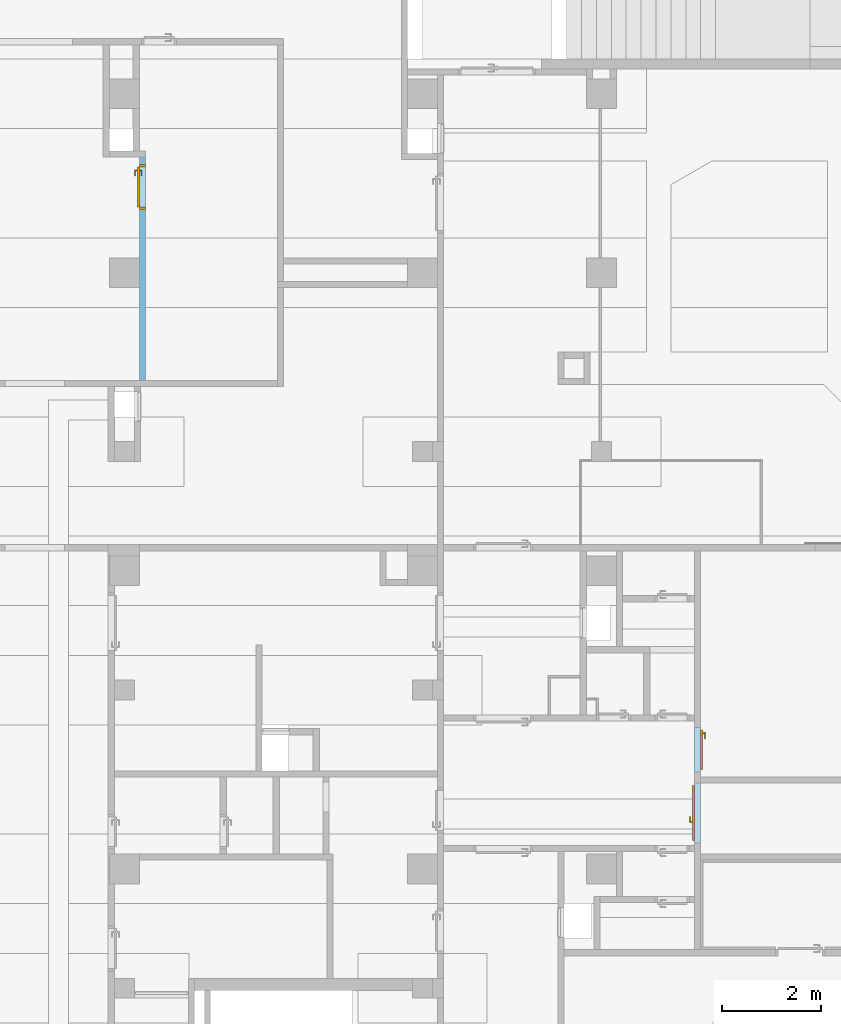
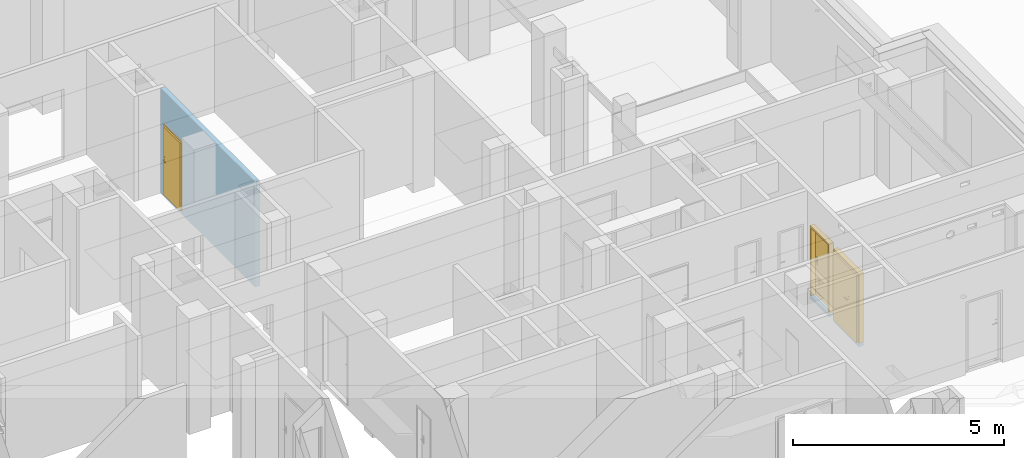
# One storey, part 70 of 84: 3 doors, 3 openings, plus 3 elements that do not belong to this part.
"""IFC4 building model written with IfcOpenShell, lengths in metres."""

from ifc_helpers import new_model, entity, si_unit, converted_unit, derived_unit, frame, frame_2d, origin, origin_with_axes, place, context, subcontext, project, spatial, polyline, rectangle, outline, extrude, closed_shell, open_shell, surface_model, source, transform, mapped, material, layer, layer_set, layer_usage, type_object, element, fill, save


model = new_model("IFC4")

# Units and contexts
model_context = context("Model", 3, precision=1e-05, world=origin())
body_context = subcontext(model_context, "Body", "Model", "MODEL_VIEW")
ifc_project = project(units=[si_unit("LENGTHUNIT", "METRE"), si_unit("AREAUNIT", "SQUARE_METRE"), si_unit("VOLUMEUNIT", "CUBIC_METRE"), si_unit("MASSUNIT", "GRAM", prefix="KILO"), converted_unit("PLANEANGLEUNIT", "DEGREE", entity("IfcPlaneAngleMeasure", 0.0174532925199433), si_unit("PLANEANGLEUNIT", "RADIAN"), dimensions=[0, 0, 0, 0, 0, 0, 0]), derived_unit("THERMALTRANSMITTANCEUNIT", [(si_unit("POWERUNIT", "WATT"), 1), (si_unit("THERMODYNAMICTEMPERATUREUNIT", "KELVIN"), -1), (si_unit("LENGTHUNIT", "METRE"), -2)]), derived_unit("VOLUMETRICFLOWRATEUNIT", [(si_unit("LENGTHUNIT", "METRE"), 3), (converted_unit("TIMEUNIT", "hour", entity("IfcTimeMeasure", 3600.0), si_unit("TIMEUNIT", "SECOND"), dimensions=[0, 0, 1, 0, 0, 0, 0]), -1), (si_unit("LENGTHUNIT", "METRE"), -1)])], contexts=[model_context])

# Site, building, storey
site_placement = place(None, origin())
site = spatial("IfcSite", under=ifc_project, at=site_placement, Name="3. ASŘ", CompositionType="ELEMENT")
building_placement = place(site_placement, origin())
building = spatial("IfcBuilding", under=site, at=building_placement, Name="Pavilon C", CompositionType="ELEMENT")
storey_placement = place(building_placement, frame((0.0, 0.0, -3.3)))
storey = spatial("IfcBuildingStorey", under=building, at=storey_placement, Name="Půdorys 1.PP", CompositionType="ELEMENT", Elevation=-3.3)

# Wall, opening, door
ifc_material_1 = material(Name="ZDIVO Z CDm")
ifc_layer_1 = layer(ifc_material_1, 0.125)
ifc_layer_set_1 = layer_set([ifc_layer_1])
ifc_layer_usage_1 = layer_usage(ifc_layer_set_1, "AXIS2", "POSITIVE", 0.0)
wall_1_placement = place(storey_placement, frame((34.65, 27.525, -0.1), z_axis=(0.0, 0.0, 1.0), x_axis=(0.0, -1.0, 0.0)))
wall_1 = element("IfcWall", 1, at=wall_1_placement, inside=storey, material=ifc_layer_usage_1, Name="ZDIVO Z CDm", context=body_context, shape_type="SweptSolid", body=[
    extrude(rectangle(XDim=4.495, YDim=0.125, at=frame_2d((2.2475, 0.0625), x_axis=(1.0, 0.0))), origin_with_axes(), (0.0, 0.0, 1.0), 3.05),
])
opening_1_placement = place(wall_1_placement, frame((0.150000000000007, 0.0, 0.1), z_axis=(0.0, 1.0, 0.0), x_axis=(0.0, 0.0, 1.0)))
opening_1 = element("IfcOpeningElement", 2, at=opening_1_placement, cuts=wall_1, Name="Dveřní otvor", ObjectType="Opening", context=body_context, shape_type="SweptSolid", body=[
    extrude(outline(polyline([(0.0, 0.9), (2.02, 0.9), (2.02, 0.0), (0.0, 0.0), (0.0, 0.9)])), origin_with_axes(), (0.0, 0.0, 1.0), 0.125),
])
door_type_1 = type_object("IfcDoorType", Name="D101", OperationType="NOTDEFINED", ParameterTakesPrecedence=False, PredefinedType="DOOR")
shared_shape_1 = source(origin_with_axes(), body_context, "Body", "SurfaceModel", [
    surface_model("IfcShellBasedSurfaceModel", [(0.0, 0.225, 2.02), (0.0, 0.225, -7.65404249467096e-18), (0.05, 0.225, -7.65404249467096e-18), (0.05, 0.225, 2.02), (0.0, 0.0999999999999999, 7.65404249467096e-18), (0.0, 0.1, 2.02), (0.05, 0.1, 2.02), (0.05, 0.0999999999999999, 7.65404249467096e-18)], [closed_shell([[[0, 1, 2, 3]], [[4, 5, 6, 7]], [[1, 0, 5, 4]], [[2, 1, 4, 7]], [[3, 2, 7, 6]], [[0, 3, 6, 5]]], orient=[[False], [False], [False], [False], [False], [False]])]),
    surface_model("IfcShellBasedSurfaceModel", [(0.85, 0.225, 2.02), (0.85, 0.225, -7.65404249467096e-18), (0.9, 0.225, -7.65404249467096e-18), (0.9, 0.225, 2.02), (0.85, 0.0999999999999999, 7.65404249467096e-18), (0.85, 0.1, 2.02), (0.9, 0.1, 2.02), (0.9, 0.0999999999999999, 7.65404249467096e-18)], [closed_shell([[[0, 1, 2, 3]], [[4, 5, 6, 7]], [[1, 0, 5, 4]], [[2, 1, 4, 7]], [[3, 2, 7, 6]], [[0, 3, 6, 5]]], orient=[[False], [False], [False], [False], [False], [False]])]),
    surface_model("IfcShellBasedSurfaceModel", [(0.05, 0.225, 2.02), (0.05, 0.225, 1.97), (0.85, 0.225, 1.97), (0.85, 0.225, 2.02), (0.05, 0.1, 1.97), (0.05, 0.1, 2.02), (0.85, 0.1, 2.02), (0.85, 0.1, 1.97)], [closed_shell([[[0, 1, 2, 3]], [[4, 5, 6, 7]], [[1, 0, 5, 4]], [[2, 1, 4, 7]], [[3, 2, 7, 6]], [[0, 3, 6, 5]]], orient=[[False], [False], [False], [False], [False], [False]])]),
    surface_model("IfcShellBasedSurfaceModel", [(0.05, 0.1, 1.97), (0.05, 0.0999999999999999, 7.65404249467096e-18), (0.85, 0.0999999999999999, 7.65404249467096e-18), (0.85, 0.1, 1.97), (0.05, 0.0599999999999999, 1.25526296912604e-17), (0.05, 0.0600000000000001, 1.97), (0.85, 0.0600000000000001, 1.97), (0.85, 0.0599999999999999, 1.25526296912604e-17)], [closed_shell([[[0, 1, 2, 3]], [[4, 5, 6, 7]], [[1, 0, 5, 4]], [[2, 1, 4, 7]], [[3, 2, 7, 6]], [[0, 3, 6, 5]]], orient=[[False], [False], [False], [False], [False], [False]])]),
    surface_model("IfcShellBasedSurfaceModel", [(0.09, 0.06, 1.125), (0.09, 0.06, 0.91), (0.14, 0.06, 0.91), (0.14, 0.06, 1.125), (0.09, 0.05, 0.91), (0.09, 0.05, 1.125), (0.14, 0.05, 1.125), (0.14, 0.05, 0.91)], [closed_shell([[[0, 1, 2, 3]], [[4, 5, 6, 7]], [[1, 0, 5, 4]], [[2, 1, 4, 7]], [[3, 2, 7, 6]], [[0, 3, 6, 5]]], orient=[[False], [False], [False], [False], [False], [False]])]),
    surface_model("IfcShellBasedSurfaceModel", [(0.115, 0.05, 1.06), (0.11, 0.05, 1.05866025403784), (0.106339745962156, 0.05, 1.055), (0.105, 0.05, 1.05), (0.106339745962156, 0.05, 1.045), (0.11, 0.05, 1.04133974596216), (0.115, 0.05, 1.04), (0.12, 0.05, 1.04133974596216), (0.123660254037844, 0.05, 1.045), (0.125, 0.05, 1.05), (0.123660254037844, 0.05, 1.055), (0.12, 0.05, 1.05866025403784), (0.115, 0.01, 1.06), (0.11, 0.00500000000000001, 1.05866025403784), (0.106339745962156, 0.00133974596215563, 1.055), (0.105, 2.8421709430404e-17, 1.05), (0.106339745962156, 0.00133974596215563, 1.045), (0.11, 0.00500000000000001, 1.04133974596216), (0.115, 0.01, 1.04), (0.12, 0.015, 1.04133974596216), (0.123660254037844, 0.0186602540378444, 1.045), (0.125, 0.02, 1.05), (0.123660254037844, 0.0186602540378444, 1.055), (0.12, 0.015, 1.05866025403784), (0.23, 0.01, 1.06), (0.23, 0.005, 1.05866025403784), (0.23, 0.00133974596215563, 1.055), (0.23, 0.0, 1.05), (0.23, 0.00133974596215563, 1.045), (0.23, 0.005, 1.04133974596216), (0.23, 0.01, 1.04), (0.23, 0.015, 1.04133974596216), (0.23, 0.0186602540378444, 1.045), (0.23, 0.02, 1.05), (0.23, 0.0186602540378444, 1.055), (0.23, 0.015, 1.05866025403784)], [open_shell([[[0, 1, 2, 3, 4, 5, 6, 7, 8, 9, 10, 11]], [[0, 12, 13, 1]], [[1, 13, 14, 2]], [[2, 14, 15, 3]], [[3, 15, 16, 4]], [[4, 16, 17, 5]], [[5, 17, 18, 6]], [[6, 18, 19, 7]], [[7, 19, 20, 8]], [[8, 20, 21, 9]], [[9, 21, 22, 10]], [[10, 22, 23, 11]], [[11, 23, 12, 0]], [[12, 24, 25, 13]], [[13, 25, 26, 14]], [[14, 26, 27, 15]], [[15, 27, 28, 16]], [[16, 28, 29, 17]], [[17, 29, 30, 18]], [[18, 30, 31, 19]], [[19, 31, 32, 20]], [[20, 32, 33, 21]], [[21, 33, 34, 22]], [[22, 34, 35, 23]], [[23, 35, 24, 12]]], orient=[[False], [False], [False], [False], [False], [False], [False], [False], [False], [False], [False], [False], [False], [False], [False], [False], [False], [False], [False], [False], [False], [False], [False], [False], [False]])]),
    surface_model("IfcShellBasedSurfaceModel", [(0.09, 0.1, 1.125), (0.14, 0.1, 1.125), (0.14, 0.1, 0.91), (0.09, 0.1, 0.91), (0.09, 0.11, 0.91), (0.14, 0.11, 0.91), (0.14, 0.11, 1.125), (0.09, 0.11, 1.125)], [closed_shell([[[0, 1, 2, 3]], [[4, 5, 6, 7]], [[3, 4, 7, 0]], [[2, 5, 4, 3]], [[1, 6, 5, 2]], [[0, 7, 6, 1]]], orient=[[False], [False], [False], [False], [False], [False]])]),
    surface_model("IfcShellBasedSurfaceModel", [(0.115, 0.11, 1.06), (0.12, 0.11, 1.05866025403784), (0.123660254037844, 0.11, 1.055), (0.125, 0.11, 1.05), (0.123660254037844, 0.11, 1.045), (0.12, 0.11, 1.04133974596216), (0.115, 0.11, 1.04), (0.11, 0.11, 1.04133974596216), (0.106339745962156, 0.11, 1.045), (0.105, 0.11, 1.05), (0.106339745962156, 0.11, 1.055), (0.11, 0.11, 1.05866025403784), (0.11, 0.155, 1.05866025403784), (0.115, 0.15, 1.06), (0.106339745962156, 0.158660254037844, 1.055), (0.105, 0.16, 1.05), (0.106339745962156, 0.158660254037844, 1.045), (0.11, 0.155, 1.04133974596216), (0.115, 0.15, 1.04), (0.12, 0.145, 1.04133974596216), (0.123660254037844, 0.141339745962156, 1.045), (0.125, 0.14, 1.05), (0.123660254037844, 0.141339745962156, 1.055), (0.12, 0.145, 1.05866025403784), (0.23, 0.155, 1.05866025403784), (0.23, 0.15, 1.06), (0.23, 0.158660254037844, 1.055), (0.23, 0.16, 1.05), (0.23, 0.158660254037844, 1.045), (0.23, 0.155, 1.04133974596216), (0.23, 0.15, 1.04), (0.23, 0.145, 1.04133974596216), (0.23, 0.141339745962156, 1.045), (0.23, 0.14, 1.05), (0.23, 0.141339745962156, 1.055), (0.23, 0.145, 1.05866025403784)], [open_shell([[[0, 1, 2, 3, 4, 5, 6, 7, 8, 9, 10, 11]], [[0, 11, 12, 13]], [[11, 10, 14, 12]], [[10, 9, 15, 14]], [[9, 8, 16, 15]], [[8, 7, 17, 16]], [[7, 6, 18, 17]], [[6, 5, 19, 18]], [[5, 4, 20, 19]], [[4, 3, 21, 20]], [[3, 2, 22, 21]], [[2, 1, 23, 22]], [[1, 0, 13, 23]], [[13, 12, 24, 25]], [[12, 14, 26, 24]], [[14, 15, 27, 26]], [[15, 16, 28, 27]], [[16, 17, 29, 28]], [[17, 18, 30, 29]], [[18, 19, 31, 30]], [[19, 20, 32, 31]], [[20, 21, 33, 32]], [[21, 22, 34, 33]], [[22, 23, 35, 34]], [[23, 13, 25, 35]]], orient=[[False], [False], [False], [False], [False], [False], [False], [False], [False], [False], [False], [False], [False], [False], [False], [False], [False], [False], [False], [False], [False], [False], [False], [False], [False]])]),
])
door_1_placement = place(opening_1_placement, frame((0.0, 7.27595761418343e-15, -0.100000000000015), z_axis=(1.0, 0.0, 0.0), x_axis=(0.0, 1.0, 1.22464679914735e-16)))
door_1 = element("IfcDoor", 3, at=door_1_placement, inside=storey, type_object=door_type_1, Name="D101", OverallHeight=2.02, OverallWidth=0.9, context=body_context, shape_type="MappedRepresentation", body=[
    mapped(shared_shape_1, transform((0.0, 0.0, 0.0), x_axis=(1.0, 0.0, 0.0), y_axis=(0.0, 1.0, 0.0), z_axis=(0.0, 0.0, 1.0), scale=1.0)),
])
fill(opening_1, door_1)

ifc_material_2 = material(Name="ZDIVO Z CDm")
ifc_layer_2 = layer(ifc_material_2, 0.125)
ifc_layer_set_2 = layer_set([ifc_layer_2])
ifc_layer_usage_2 = layer_usage(ifc_layer_set_2, "AXIS2", "POSITIVE", 0.0)
wall_2_placement = place(storey_placement, frame((45.95, 13.725, -0.1), z_axis=(0.0, 0.0, 1.0), x_axis=(0.0, 1.0, 0.0)))
wall_2 = element("IfcWall", 4, at=wall_2_placement, inside=storey, material=ifc_layer_usage_2, Name="ZDIVO Z CDm", context=body_context, shape_type="SweptSolid", body=[
    extrude(rectangle(XDim=1.2, YDim=0.125, at=frame_2d((0.6, 0.0625), x_axis=(1.0, 0.0))), origin_with_axes(), (0.0, 0.0, 1.0), 2.12),
])
opening_2_placement = place(wall_2_placement, frame((0.0, 0.0, 0.1), z_axis=(0.0, 1.0, 0.0), x_axis=(0.0, 0.0, 1.0)))
opening_2 = element("IfcOpeningElement", 5, at=opening_2_placement, cuts=wall_2, Name="Dveřní otvor", ObjectType="Opening", context=body_context, shape_type="SweptSolid", body=[
    extrude(outline(polyline([(0.0, 1.2), (2.02, 1.2), (2.02, 0.0), (0.0, 0.0), (0.0, 1.2)])), origin_with_axes(), (0.0, 0.0, 1.0), 0.125),
])
door_type_2 = type_object("IfcDoorType", Name="I.D035", OperationType="NOTDEFINED", ParameterTakesPrecedence=False, PredefinedType="DOOR")
shared_shape_2 = source(origin_with_axes(), body_context, "Body", "SurfaceModel", [
    surface_model("IfcShellBasedSurfaceModel", [(0.0, 0.125, 2.019), (0.0, 0.125, -7.7715611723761e-18), (0.05, 0.125, -7.7715611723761e-18), (0.05, 0.125, 2.019), (0.0, 0.0, 7.54951656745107e-18), (0.0, 2.41584530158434e-16, 2.019), (0.05, 2.41584530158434e-16, 2.019), (0.05, 0.0, 7.54951656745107e-18)], [closed_shell([[[0, 1, 2, 3]], [[4, 5, 6, 7]], [[1, 0, 5, 4]], [[2, 1, 4, 7]], [[3, 2, 7, 6]], [[0, 3, 6, 5]]], orient=[[False], [False], [False], [False], [False], [False]])]),
    surface_model("IfcShellBasedSurfaceModel", [(1.15, 0.125, 2.019), (1.15, 0.125, -7.7715611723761e-18), (1.2, 0.125, -7.7715611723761e-18), (1.2, 0.125, 2.019), (1.15, 0.0, 7.54951656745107e-18), (1.15, 2.41584530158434e-16, 2.019), (1.2, 2.41584530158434e-16, 2.019), (1.2, 0.0, 7.54951656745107e-18)], [closed_shell([[[0, 1, 2, 3]], [[4, 5, 6, 7]], [[1, 0, 5, 4]], [[2, 1, 4, 7]], [[3, 2, 7, 6]], [[0, 3, 6, 5]]], orient=[[False], [False], [False], [False], [False], [False]])]),
    surface_model("IfcShellBasedSurfaceModel", [(0.05, 0.125, 2.019), (0.05, 0.125, 1.969), (1.15, 0.125, 1.969), (1.15, 0.125, 2.019), (0.05, 2.41584530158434e-16, 1.969), (0.05, 2.41584530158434e-16, 2.019), (1.15, 2.41584530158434e-16, 2.019), (1.15, 2.41584530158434e-16, 1.969)], [closed_shell([[[0, 1, 2, 3]], [[4, 5, 6, 7]], [[1, 0, 5, 4]], [[2, 1, 4, 7]], [[3, 2, 7, 6]], [[0, 3, 6, 5]]], orient=[[False], [False], [False], [False], [False], [False]])]),
    surface_model("IfcShellBasedSurfaceModel", [(0.05, 0.165, 1.969), (0.05, 0.165, -1.26565424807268e-17), (0.85, 0.165, -1.26565424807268e-17), (0.85, 0.165, 1.969), (0.05, 0.125, -7.7715611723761e-18), (0.05, 0.125, 1.969), (0.85, 0.125, 1.969), (0.85, 0.125, -7.7715611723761e-18)], [closed_shell([[[0, 1, 2, 3]], [[4, 5, 6, 7]], [[1, 0, 5, 4]], [[2, 1, 4, 7]], [[3, 2, 7, 6]], [[0, 3, 6, 5]]], orient=[[False], [False], [False], [False], [False], [False]])]),
    surface_model("IfcShellBasedSurfaceModel", [(0.76, 0.125, 1.125), (0.76, 0.125, 0.91), (0.81, 0.125, 0.91), (0.81, 0.125, 1.125), (0.76, 0.115, 0.91), (0.76, 0.115, 1.125), (0.81, 0.115, 1.125), (0.81, 0.115, 0.91)], [closed_shell([[[0, 1, 2, 3]], [[4, 5, 6, 7]], [[1, 0, 5, 4]], [[2, 1, 4, 7]], [[3, 2, 7, 6]], [[0, 3, 6, 5]]], orient=[[False], [False], [False], [False], [False], [False]])]),
    surface_model("IfcShellBasedSurfaceModel", [(0.785, 0.115, 1.06), (0.78, 0.115, 1.05866025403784), (0.776339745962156, 0.115, 1.055), (0.775, 0.115, 1.05), (0.776339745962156, 0.115, 1.045), (0.78, 0.115, 1.04133974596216), (0.785, 0.115, 1.04), (0.79, 0.115, 1.04133974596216), (0.793660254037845, 0.115, 1.045), (0.795, 0.115, 1.05), (0.793660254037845, 0.115, 1.055), (0.79, 0.115, 1.05866025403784), (0.79, 0.0700000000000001, 1.05866025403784), (0.785, 0.0750000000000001, 1.06), (0.793660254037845, 0.0663397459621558, 1.055), (0.795, 0.0650000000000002, 1.05), (0.793660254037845, 0.0663397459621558, 1.045), (0.79, 0.0700000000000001, 1.04133974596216), (0.785, 0.0750000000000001, 1.04), (0.78, 0.0800000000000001, 1.04133974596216), (0.776339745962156, 0.0836602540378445, 1.045), (0.775, 0.0850000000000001, 1.05), (0.776339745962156, 0.0836602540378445, 1.055), (0.78, 0.0800000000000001, 1.05866025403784), (0.67, 0.0700000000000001, 1.05866025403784), (0.67, 0.0750000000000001, 1.06), (0.67, 0.0663397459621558, 1.055), (0.67, 0.0650000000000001, 1.05), (0.67, 0.0663397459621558, 1.045), (0.67, 0.0700000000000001, 1.04133974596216), (0.67, 0.0750000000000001, 1.04), (0.67, 0.0800000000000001, 1.04133974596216), (0.67, 0.0836602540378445, 1.045), (0.67, 0.0850000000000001, 1.05), (0.67, 0.0836602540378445, 1.055), (0.67, 0.0800000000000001, 1.05866025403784)], [open_shell([[[0, 1, 2, 3, 4, 5, 6, 7, 8, 9, 10, 11]], [[0, 11, 12, 13]], [[11, 10, 14, 12]], [[10, 9, 15, 14]], [[9, 8, 16, 15]], [[8, 7, 17, 16]], [[7, 6, 18, 17]], [[6, 5, 19, 18]], [[5, 4, 20, 19]], [[4, 3, 21, 20]], [[3, 2, 22, 21]], [[2, 1, 23, 22]], [[1, 0, 13, 23]], [[13, 12, 24, 25]], [[12, 14, 26, 24]], [[14, 15, 27, 26]], [[15, 16, 28, 27]], [[16, 17, 29, 28]], [[17, 18, 30, 29]], [[18, 19, 31, 30]], [[19, 20, 32, 31]], [[20, 21, 33, 32]], [[21, 22, 34, 33]], [[22, 23, 35, 34]], [[23, 13, 25, 35]]], orient=[[False], [False], [False], [False], [False], [False], [False], [False], [False], [False], [False], [False], [False], [False], [False], [False], [False], [False], [False], [False], [False], [False], [False], [False], [False]])]),
    surface_model("IfcShellBasedSurfaceModel", [(0.76, 0.165, 1.125), (0.81, 0.165, 1.125), (0.81, 0.165, 0.91), (0.76, 0.165, 0.91), (0.76, 0.175, 0.91), (0.81, 0.175, 0.91), (0.81, 0.175, 1.125), (0.76, 0.175, 1.125)], [closed_shell([[[0, 1, 2, 3]], [[4, 5, 6, 7]], [[3, 4, 7, 0]], [[2, 5, 4, 3]], [[1, 6, 5, 2]], [[0, 7, 6, 1]]], orient=[[False], [False], [False], [False], [False], [False]])]),
    surface_model("IfcShellBasedSurfaceModel", [(0.785, 0.175, 1.06), (0.79, 0.175, 1.05866025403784), (0.793660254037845, 0.175, 1.055), (0.795, 0.175, 1.05), (0.793660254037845, 0.175, 1.045), (0.79, 0.175, 1.04133974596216), (0.785, 0.175, 1.04), (0.78, 0.175, 1.04133974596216), (0.776339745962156, 0.175, 1.045), (0.775, 0.175, 1.05), (0.776339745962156, 0.175, 1.055), (0.78, 0.175, 1.05866025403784), (0.785, 0.215, 1.06), (0.79, 0.22, 1.05866025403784), (0.793660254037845, 0.223660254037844, 1.055), (0.795, 0.225, 1.05), (0.793660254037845, 0.223660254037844, 1.045), (0.79, 0.22, 1.04133974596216), (0.785, 0.215, 1.04), (0.78, 0.21, 1.04133974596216), (0.776339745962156, 0.206339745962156, 1.045), (0.775, 0.205, 1.05), (0.776339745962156, 0.206339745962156, 1.055), (0.78, 0.21, 1.05866025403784), (0.67, 0.215, 1.06), (0.67, 0.22, 1.05866025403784), (0.67, 0.223660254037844, 1.055), (0.67, 0.225, 1.05), (0.67, 0.223660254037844, 1.045), (0.67, 0.22, 1.04133974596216), (0.67, 0.215, 1.04), (0.67, 0.21, 1.04133974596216), (0.67, 0.206339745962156, 1.045), (0.67, 0.205, 1.05), (0.67, 0.206339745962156, 1.055), (0.67, 0.21, 1.05866025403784)], [open_shell([[[0, 1, 2, 3, 4, 5, 6, 7, 8, 9, 10, 11]], [[0, 12, 13, 1]], [[1, 13, 14, 2]], [[2, 14, 15, 3]], [[3, 15, 16, 4]], [[4, 16, 17, 5]], [[5, 17, 18, 6]], [[6, 18, 19, 7]], [[7, 19, 20, 8]], [[8, 20, 21, 9]], [[9, 21, 22, 10]], [[10, 22, 23, 11]], [[11, 23, 12, 0]], [[12, 24, 25, 13]], [[13, 25, 26, 14]], [[14, 26, 27, 15]], [[15, 27, 28, 16]], [[16, 28, 29, 17]], [[17, 29, 30, 18]], [[18, 30, 31, 19]], [[19, 31, 32, 20]], [[20, 32, 33, 21]], [[21, 33, 34, 22]], [[22, 34, 35, 23]], [[23, 35, 24, 12]]], orient=[[False], [False], [False], [False], [False], [False], [False], [False], [False], [False], [False], [False], [False], [False], [False], [False], [False], [False], [False], [False], [False], [False], [False], [False], [False]])]),
    surface_model("IfcShellBasedSurfaceModel", [(0.851, 0.165, 1.969), (0.851, 0.165, -1.26565424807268e-17), (1.15, 0.165, -1.26565424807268e-17), (1.15, 0.165, 1.969), (0.851, 0.125, -7.7715611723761e-18), (0.851, 0.125, 1.969), (1.15, 0.125, 1.969), (1.15, 0.125, -7.7715611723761e-18)], [closed_shell([[[0, 1, 2, 3]], [[4, 5, 6, 7]], [[1, 0, 5, 4]], [[2, 1, 4, 7]], [[3, 2, 7, 6]], [[0, 3, 6, 5]]], orient=[[False], [False], [False], [False], [False], [False]])]),
])
door_2_placement = place(opening_2_placement, frame((0.001, 1.19999999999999, 1.45519152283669e-14), z_axis=(1.0, 0.0, 0.0), x_axis=(0.0, -1.0, 1.22464679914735e-16)))
door_2 = element("IfcDoor", 6, at=door_2_placement, inside=storey, type_object=door_type_2, Name="I.D035", OverallHeight=2.02, OverallWidth=1.2, context=body_context, shape_type="MappedRepresentation", body=[
    mapped(shared_shape_2, transform((0.0, 0.0, 0.0), x_axis=(1.0, 0.0, 0.0), y_axis=(0.0, -1.0, 0.0), z_axis=(0.0, 0.0, 1.0), scale=1.0)),
])
fill(opening_2, door_2)

ifc_material_3 = material(Name="ZDIVO Z CDm")
ifc_layer_3 = layer(ifc_material_3, 0.125)
ifc_layer_set_3 = layer_set([ifc_layer_3])
ifc_layer_usage_3 = layer_usage(ifc_layer_set_3, "AXIS2", "POSITIVE", 0.0)
wall_3_placement = place(storey_placement, frame((45.95, 15.15, -0.1), z_axis=(0.0, 0.0, 1.0), x_axis=(0.0, 1.0, 0.0)))
wall_3 = element("IfcWall", 7, at=wall_3_placement, inside=storey, material=ifc_layer_usage_3, Name="ZDIVO Z CDm", context=body_context, shape_type="SweptSolid", body=[
    extrude(rectangle(XDim=0.9, YDim=0.125, at=frame_2d((0.45, 0.0625), x_axis=(1.0, 0.0))), origin_with_axes(), (0.0, 0.0, 1.0), 2.12),
])
opening_3_placement = place(wall_3_placement, frame((0.9, 0.125, 0.1), z_axis=(0.0, -1.0, 0.0), x_axis=(0.0, 0.0, 1.0)))
opening_3 = element("IfcOpeningElement", 8, at=opening_3_placement, cuts=wall_3, Name="Dveřní otvor", ObjectType="Opening", context=body_context, shape_type="SweptSolid", body=[
    extrude(outline(polyline([(0.0, 0.9), (2.02, 0.9), (2.02, 0.0), (0.0, 0.0), (0.0, 0.9)])), origin_with_axes(), (0.0, 0.0, 1.0), 0.125),
])
door_type_3 = type_object("IfcDoorType", Name="I.D034", OperationType="NOTDEFINED", ParameterTakesPrecedence=False, PredefinedType="DOOR")
shared_shape_3 = source(origin_with_axes(), body_context, "Body", "SurfaceModel", [
    surface_model("IfcShellBasedSurfaceModel", [(0.0, 0.125, 2.019), (0.0, 0.125, -7.7715611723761e-18), (0.05, 0.125, -7.7715611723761e-18), (0.05, 0.125, 2.019), (0.0, 0.0, 7.54951656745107e-18), (0.0, 2.41584530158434e-16, 2.019), (0.05, 2.41584530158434e-16, 2.019), (0.05, 0.0, 7.54951656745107e-18)], [closed_shell([[[0, 1, 2, 3]], [[4, 5, 6, 7]], [[1, 0, 5, 4]], [[2, 1, 4, 7]], [[3, 2, 7, 6]], [[0, 3, 6, 5]]], orient=[[False], [False], [False], [False], [False], [False]])]),
    surface_model("IfcShellBasedSurfaceModel", [(0.85, 0.125, 2.019), (0.85, 0.125, -7.7715611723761e-18), (0.9, 0.125, -7.7715611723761e-18), (0.9, 0.125, 2.019), (0.85, 0.0, 7.54951656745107e-18), (0.85, 2.41584530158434e-16, 2.019), (0.9, 2.41584530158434e-16, 2.019), (0.9, 0.0, 7.54951656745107e-18)], [closed_shell([[[0, 1, 2, 3]], [[4, 5, 6, 7]], [[1, 0, 5, 4]], [[2, 1, 4, 7]], [[3, 2, 7, 6]], [[0, 3, 6, 5]]], orient=[[False], [False], [False], [False], [False], [False]])]),
    surface_model("IfcShellBasedSurfaceModel", [(0.05, 0.125, 2.019), (0.05, 0.125, 1.969), (0.85, 0.125, 1.969), (0.85, 0.125, 2.019), (0.05, 2.41584530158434e-16, 1.969), (0.05, 2.41584530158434e-16, 2.019), (0.85, 2.41584530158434e-16, 2.019), (0.85, 2.41584530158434e-16, 1.969)], [closed_shell([[[0, 1, 2, 3]], [[4, 5, 6, 7]], [[1, 0, 5, 4]], [[2, 1, 4, 7]], [[3, 2, 7, 6]], [[0, 3, 6, 5]]], orient=[[False], [False], [False], [False], [False], [False]])]),
    surface_model("IfcShellBasedSurfaceModel", [(0.05, 0.165, 1.969), (0.05, 0.165, -1.26565424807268e-17), (0.85, 0.165, -1.26565424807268e-17), (0.85, 0.165, 1.969), (0.05, 0.125, -7.7715611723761e-18), (0.05, 0.125, 1.969), (0.85, 0.125, 1.969), (0.85, 0.125, -7.7715611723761e-18)], [closed_shell([[[0, 1, 2, 3]], [[4, 5, 6, 7]], [[1, 0, 5, 4]], [[2, 1, 4, 7]], [[3, 2, 7, 6]], [[0, 3, 6, 5]]], orient=[[False], [False], [False], [False], [False], [False]])]),
    surface_model("IfcShellBasedSurfaceModel", [(0.76, 0.125, 1.125), (0.76, 0.125, 0.91), (0.81, 0.125, 0.91), (0.81, 0.125, 1.125), (0.76, 0.115, 0.91), (0.76, 0.115, 1.125), (0.81, 0.115, 1.125), (0.81, 0.115, 0.91)], [closed_shell([[[0, 1, 2, 3]], [[4, 5, 6, 7]], [[1, 0, 5, 4]], [[2, 1, 4, 7]], [[3, 2, 7, 6]], [[0, 3, 6, 5]]], orient=[[False], [False], [False], [False], [False], [False]])]),
    surface_model("IfcShellBasedSurfaceModel", [(0.785, 0.115, 1.06), (0.78, 0.115, 1.05866025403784), (0.776339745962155, 0.115, 1.055), (0.775, 0.115, 1.05), (0.776339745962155, 0.115, 1.045), (0.78, 0.115, 1.04133974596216), (0.785, 0.115, 1.04), (0.79, 0.115, 1.04133974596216), (0.793660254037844, 0.115, 1.045), (0.795, 0.115, 1.05), (0.793660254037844, 0.115, 1.055), (0.79, 0.115, 1.05866025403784), (0.79, 0.0700000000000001, 1.05866025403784), (0.785, 0.0750000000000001, 1.06), (0.793660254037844, 0.0663397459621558, 1.055), (0.795, 0.0650000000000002, 1.05), (0.793660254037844, 0.0663397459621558, 1.045), (0.79, 0.0700000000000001, 1.04133974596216), (0.785, 0.0750000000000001, 1.04), (0.78, 0.0800000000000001, 1.04133974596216), (0.776339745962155, 0.0836602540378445, 1.045), (0.775, 0.0850000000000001, 1.05), (0.776339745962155, 0.0836602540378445, 1.055), (0.78, 0.0800000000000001, 1.05866025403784), (0.67, 0.0700000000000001, 1.05866025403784), (0.67, 0.0750000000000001, 1.06), (0.67, 0.0663397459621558, 1.055), (0.67, 0.0650000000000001, 1.05), (0.67, 0.0663397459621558, 1.045), (0.67, 0.0700000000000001, 1.04133974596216), (0.67, 0.0750000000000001, 1.04), (0.67, 0.0800000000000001, 1.04133974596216), (0.67, 0.0836602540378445, 1.045), (0.67, 0.0850000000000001, 1.05), (0.67, 0.0836602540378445, 1.055), (0.67, 0.0800000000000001, 1.05866025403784)], [open_shell([[[0, 1, 2, 3, 4, 5, 6, 7, 8, 9, 10, 11]], [[0, 11, 12, 13]], [[11, 10, 14, 12]], [[10, 9, 15, 14]], [[9, 8, 16, 15]], [[8, 7, 17, 16]], [[7, 6, 18, 17]], [[6, 5, 19, 18]], [[5, 4, 20, 19]], [[4, 3, 21, 20]], [[3, 2, 22, 21]], [[2, 1, 23, 22]], [[1, 0, 13, 23]], [[13, 12, 24, 25]], [[12, 14, 26, 24]], [[14, 15, 27, 26]], [[15, 16, 28, 27]], [[16, 17, 29, 28]], [[17, 18, 30, 29]], [[18, 19, 31, 30]], [[19, 20, 32, 31]], [[20, 21, 33, 32]], [[21, 22, 34, 33]], [[22, 23, 35, 34]], [[23, 13, 25, 35]]], orient=[[False], [False], [False], [False], [False], [False], [False], [False], [False], [False], [False], [False], [False], [False], [False], [False], [False], [False], [False], [False], [False], [False], [False], [False], [False]])]),
    surface_model("IfcShellBasedSurfaceModel", [(0.76, 0.165, 1.125), (0.81, 0.165, 1.125), (0.81, 0.165, 0.91), (0.76, 0.165, 0.91), (0.76, 0.175, 0.91), (0.81, 0.175, 0.91), (0.81, 0.175, 1.125), (0.76, 0.175, 1.125)], [closed_shell([[[0, 1, 2, 3]], [[4, 5, 6, 7]], [[3, 4, 7, 0]], [[2, 5, 4, 3]], [[1, 6, 5, 2]], [[0, 7, 6, 1]]], orient=[[False], [False], [False], [False], [False], [False]])]),
    surface_model("IfcShellBasedSurfaceModel", [(0.785, 0.175, 1.06), (0.79, 0.175, 1.05866025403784), (0.793660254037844, 0.175, 1.055), (0.795, 0.175, 1.05), (0.793660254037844, 0.175, 1.045), (0.79, 0.175, 1.04133974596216), (0.785, 0.175, 1.04), (0.78, 0.175, 1.04133974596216), (0.776339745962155, 0.175, 1.045), (0.775, 0.175, 1.05), (0.776339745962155, 0.175, 1.055), (0.78, 0.175, 1.05866025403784), (0.785, 0.215, 1.06), (0.79, 0.22, 1.05866025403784), (0.793660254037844, 0.223660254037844, 1.055), (0.795, 0.225, 1.05), (0.793660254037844, 0.223660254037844, 1.045), (0.79, 0.22, 1.04133974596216), (0.785, 0.215, 1.04), (0.78, 0.21, 1.04133974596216), (0.776339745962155, 0.206339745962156, 1.045), (0.775, 0.205, 1.05), (0.776339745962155, 0.206339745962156, 1.055), (0.78, 0.21, 1.05866025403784), (0.67, 0.215, 1.06), (0.67, 0.22, 1.05866025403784), (0.67, 0.223660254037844, 1.055), (0.67, 0.225, 1.05), (0.67, 0.223660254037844, 1.045), (0.67, 0.22, 1.04133974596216), (0.67, 0.215, 1.04), (0.67, 0.21, 1.04133974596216), (0.67, 0.206339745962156, 1.045), (0.67, 0.205, 1.05), (0.67, 0.206339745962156, 1.055), (0.67, 0.21, 1.05866025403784)], [open_shell([[[0, 1, 2, 3, 4, 5, 6, 7, 8, 9, 10, 11]], [[0, 12, 13, 1]], [[1, 13, 14, 2]], [[2, 14, 15, 3]], [[3, 15, 16, 4]], [[4, 16, 17, 5]], [[5, 17, 18, 6]], [[6, 18, 19, 7]], [[7, 19, 20, 8]], [[8, 20, 21, 9]], [[9, 21, 22, 10]], [[10, 22, 23, 11]], [[11, 23, 12, 0]], [[12, 24, 25, 13]], [[13, 25, 26, 14]], [[14, 26, 27, 15]], [[15, 27, 28, 16]], [[16, 28, 29, 17]], [[17, 29, 30, 18]], [[18, 30, 31, 19]], [[19, 31, 32, 20]], [[20, 32, 33, 21]], [[21, 33, 34, 22]], [[22, 34, 35, 23]], [[23, 35, 24, 12]]], orient=[[False], [False], [False], [False], [False], [False], [False], [False], [False], [False], [False], [False], [False], [False], [False], [False], [False], [False], [False], [False], [False], [False], [False], [False], [False]])]),
])
door_3_placement = place(opening_3_placement, frame((0.001, 0.900000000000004, -1.45519152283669e-14), z_axis=(1.0, 0.0, 0.0), x_axis=(0.0, -1.0, -1.22464679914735e-16)))
door_3 = element("IfcDoor", 9, at=door_3_placement, inside=storey, type_object=door_type_3, Name="I.D034", OverallHeight=2.02, OverallWidth=0.9, context=body_context, shape_type="MappedRepresentation", body=[
    mapped(shared_shape_3, transform((0.0, 0.0, 0.0), x_axis=(1.0, 0.0, 0.0), y_axis=(0.0, -1.0, 0.0), z_axis=(0.0, 0.0, 1.0), scale=1.0)),
])
fill(opening_3, door_3)

save(model, "model.ifc")
